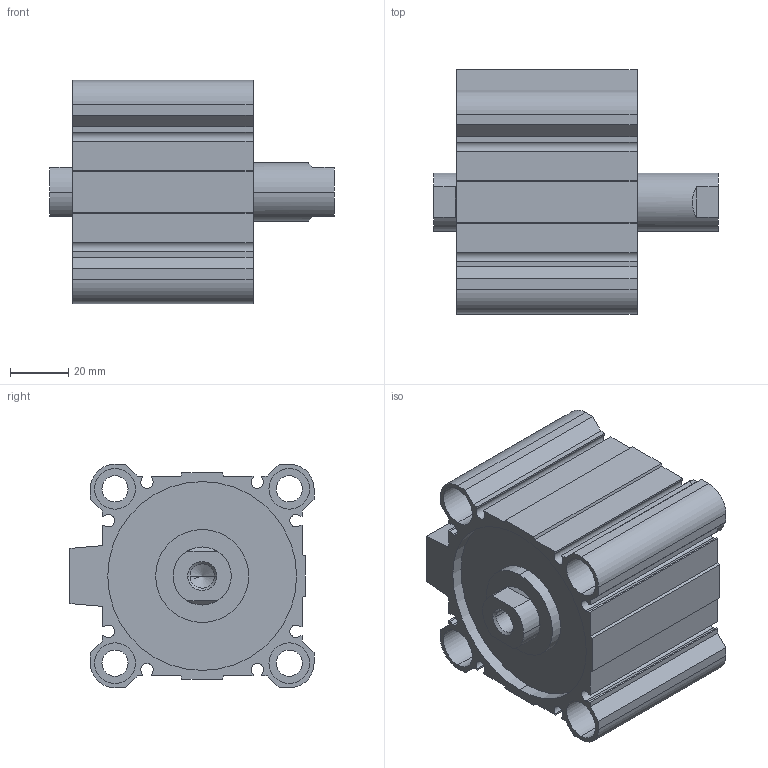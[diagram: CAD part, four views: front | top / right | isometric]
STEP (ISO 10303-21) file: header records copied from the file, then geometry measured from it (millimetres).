
FILE_DESCRIPTION (( 'STEP AP203' ), '1' );
FILE_NAME ('CCMB63-20F-P.STEP', '2020-08-05T11:46:21', ( '' ), ( '' ), 'SwSTEP 2.0', 'SolidWorks 2019', '' );
FILE_SCHEMA (( 'CONFIG_CONTROL_DESIGN' ));
Length unit declared in the file: millimetre
Products named in the file (1): CCMB63-20F-P
Bounding box: 98 x 84 x 77 mm (x, y, z)
Volume: 231070 mm3; surface area: 76699.8 mm2
Topology: 2 solids, 2 shells, 176 faces, 450 edges, 294 vertices
Faces by surface type: plane 90, cylinder 74, cone 12
Entity records: 5425 total; most frequent: DIRECTION 956, CARTESIAN_POINT 929, ORIENTED_EDGE 892, EDGE_CURVE 446, AXIS2_PLACEMENT_3D 337, VERTEX_POINT 294, LINE 282, VECTOR 282
